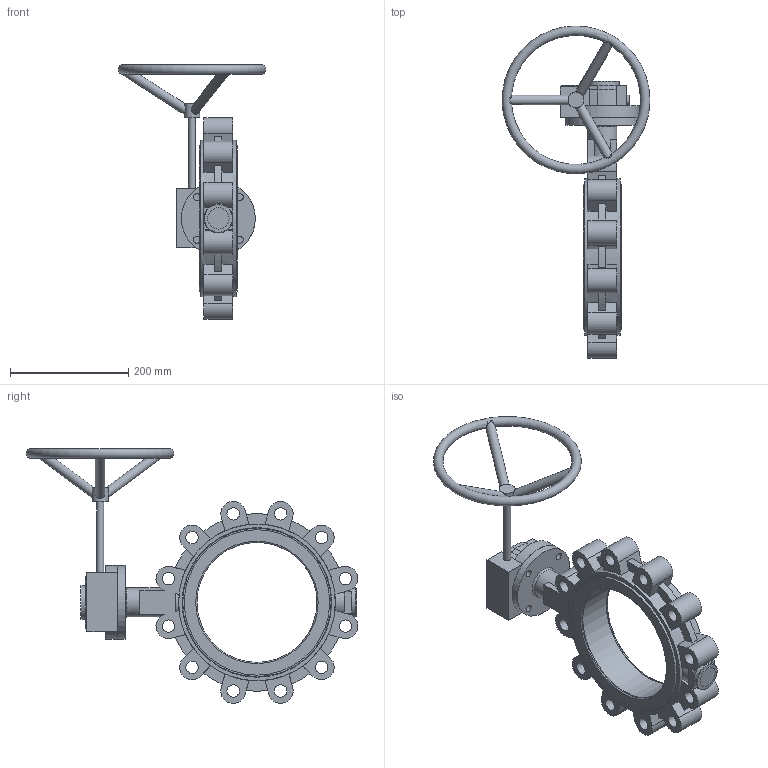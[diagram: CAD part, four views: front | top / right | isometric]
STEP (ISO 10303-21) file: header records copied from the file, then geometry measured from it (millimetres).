
FILE_DESCRIPTION (( 'STEP AP203' ), '1' );
FILE_NAME ('2502 LT型中线衬胶带销 手动头蝶阀 DN200 PN25 CD0309060.STEP', '2026-03-26T06:53:22', ( '' ), ( '' ), 'SwSTEP 2.0', 'SolidWorks 2018', '' );
FILE_SCHEMA (( 'CONFIG_CONTROL_DESIGN' ));
Length unit declared in the file: millimetre
Products named in the file (5): GALA-D200-04AZC-00; M30X1.5内六角螺塞; G35 潠趙; GALA-D200-01LCN25-00; 2502 LT型中线衬胶带销 手动头蝶阀 DN200 PN25 CD0309060
Assembly tree (4 placements, depth 2):
  2502 LT型中线衬胶带销 手动头蝶阀 DN200 PN25 CD0309060
    GALA-D200-01LCN25-00
    GALA-D200-04AZC-00
    M30X1.5内六角螺塞
    G35 潠趙
Bounding box: 249.98 x 560.85 x 430.63 mm (x, y, z)
Volume: 3442920.9 mm3; surface area: 572150.5 mm2
Topology: 4 solids, 5 shells, 249 faces, 667 edges, 437 vertices
Faces by surface type: plane 145, cylinder 73, cone 14, bspline 10, torus 7
Full cylindrical faces by diameter (mm): 12 x5, 16 x3, 17 x2, 21 x12, 27 x1, 30 x1, 36 x1, 49 x2, 57 x1, 125 x1, 202.908 x1, 212.997 x1, 213 x1, 246 x2, 251 x2, 265 x2
Entity records: 10314 total; most frequent: CARTESIAN_POINT 3821, DIRECTION 1218, ORIENTED_EDGE 1192, EDGE_CURVE 596, AXIS2_PLACEMENT_3D 447, VERTEX_POINT 423, EDGE_LOOP 355, LINE 324
